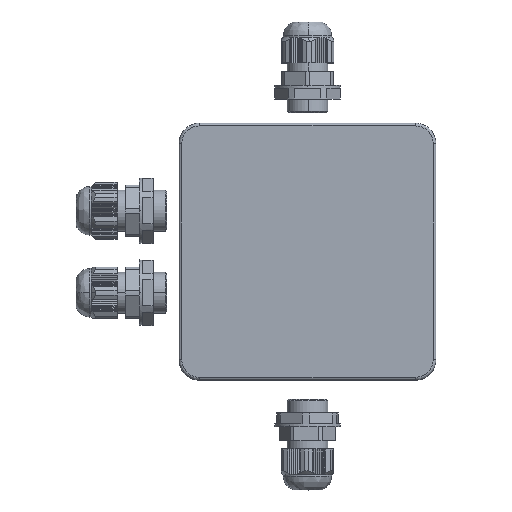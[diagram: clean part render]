
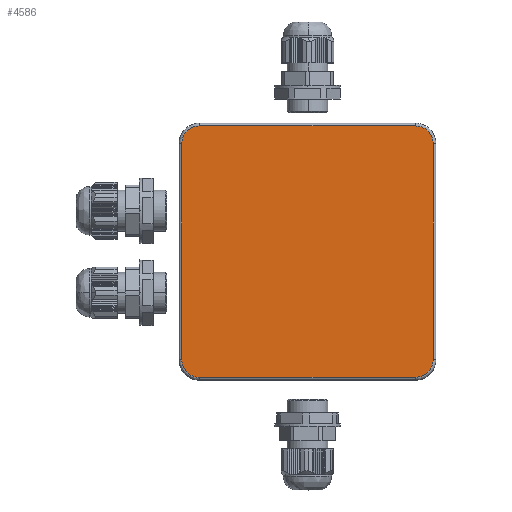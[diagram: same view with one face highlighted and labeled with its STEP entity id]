
A CAD part, top view. The second image highlights one B-rep face of the part: STEP entity #4586.
In plain terms, the highlighted planar face has unit normal (0, 0, 1).
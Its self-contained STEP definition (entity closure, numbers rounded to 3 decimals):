
#527 =( BOUNDED_CURVE ( )  B_SPLINE_CURVE ( 3, ( #1688, #5173, #7427, #9543 ),
 .UNSPECIFIED., .F., .F. ) 
 B_SPLINE_CURVE_WITH_KNOTS ( ( 4, 4 ),
 ( 0., 1. ),
 .UNSPECIFIED. ) 
 CURVE ( )  GEOMETRIC_REPRESENTATION_ITEM ( )  RATIONAL_B_SPLINE_CURVE ( ( 1., 0.805, 0.805, 1. ) ) 
 REPRESENTATION_ITEM ( '' )  );
#782 = LINE ( 'NONE', #10618, #7488 ) ;
#803 = VECTOR ( 'NONE', #870, 1000. ) ;
#870 = DIRECTION ( 'NONE',  ( 0., -1., 0. ) ) ;
#955 = ORIENTED_EDGE ( 'NONE', *, *, #6328, .F. ) ;
#1115 = ORIENTED_EDGE ( 'NONE', *, *, #8320, .F. ) ;
#1157 = VERTEX_POINT ( 'NONE', #5897 ) ;
#1190 = EDGE_CURVE ( 'NONE', #6258, #4669, #527, .T. ) ;
#1464 = EDGE_CURVE ( 'NONE', #2811, #1157, #782, .T. ) ;
#1467 = AXIS2_PLACEMENT_3D ( 'NONE', #6536, #8304, #3087 ) ;
#1672 = DIRECTION ( 'NONE',  ( 1., 0., 0. ) ) ;
#1688 = CARTESIAN_POINT ( 'NONE',  ( 39.5, 46., 15. ) ) ;
#1706 =( BOUNDED_CURVE ( )  B_SPLINE_CURVE ( 3, ( #4428, #9676, #2695, #10552 ),
 .UNSPECIFIED., .F., .F. ) 
 B_SPLINE_CURVE_WITH_KNOTS ( ( 4, 4 ),
 ( 0., 1. ),
 .UNSPECIFIED. ) 
 CURVE ( )  GEOMETRIC_REPRESENTATION_ITEM ( )  RATIONAL_B_SPLINE_CURVE ( ( 1., 0.805, 0.805, 1. ) ) 
 REPRESENTATION_ITEM ( '' )  );
#1882 = LINE ( 'NONE', #2371, #10929 ) ;
#2181 =( BOUNDED_CURVE ( )  B_SPLINE_CURVE ( 3, ( #4324, #3458, #5197, #11343 ),
 .UNSPECIFIED., .F., .F. ) 
 B_SPLINE_CURVE_WITH_KNOTS ( ( 4, 4 ),
 ( 0., 1. ),
 .UNSPECIFIED. ) 
 CURVE ( )  GEOMETRIC_REPRESENTATION_ITEM ( )  RATIONAL_B_SPLINE_CURVE ( ( 1., 0.805, 0.805, 1. ) ) 
 REPRESENTATION_ITEM ( '' )  );
#2371 = CARTESIAN_POINT ( 'NONE',  ( -39.5, -46., 15. ) ) ;
#2672 = FACE_OUTER_BOUND ( 'NONE', #10313, .T. ) ;
#2695 = CARTESIAN_POINT ( 'NONE',  ( 43.308, -46., 15. ) ) ;
#2811 = VERTEX_POINT ( 'NONE', #7261 ) ;
#2913 = CARTESIAN_POINT ( 'NONE',  ( -46., -43.308, 15. ) ) ;
#3030 = EDGE_CURVE ( 'NONE', #10125, #6258, #8699, .T. ) ;
#3087 = DIRECTION ( 'NONE',  ( 1., 0., 0. ) ) ;
#3202 = ORIENTED_EDGE ( 'NONE', *, *, #10578, .F. ) ;
#3458 = CARTESIAN_POINT ( 'NONE',  ( -46., 43.308, 15. ) ) ;
#4025 = CARTESIAN_POINT ( 'NONE',  ( 46., 39.5, 15. ) ) ;
#4068 = EDGE_CURVE ( 'NONE', #6037, #9741, #1706, .T. ) ;
#4324 = CARTESIAN_POINT ( 'NONE',  ( -46., 39.5, 15. ) ) ;
#4363 = CARTESIAN_POINT ( 'NONE',  ( -39.5, 46., 15. ) ) ;
#4428 = CARTESIAN_POINT ( 'NONE',  ( 46., -39.5, 15. ) ) ;
#4586 = ADVANCED_FACE ( 'N', ( #2672 ), #9591, .T. ) ;
#4587 = VECTOR ( 'NONE', #1672, 1000. ) ;
#4669 = VERTEX_POINT ( 'NONE', #4025 ) ;
#4776 = ORIENTED_EDGE ( 'NONE', *, *, #4068, .F. ) ;
#4999 = DIRECTION ( 'NONE',  ( -1., 0., 0. ) ) ;
#5062 = CARTESIAN_POINT ( 'NONE',  ( 46., -39.5, 15. ) ) ;
#5173 = CARTESIAN_POINT ( 'NONE',  ( 43.308, 46., 15. ) ) ;
#5197 = CARTESIAN_POINT ( 'NONE',  ( -43.308, 46., 15. ) ) ;
#5886 =( BOUNDED_CURVE ( )  B_SPLINE_CURVE ( 3, ( #7242, #8130, #2913, #9018 ),
 .UNSPECIFIED., .F., .F. ) 
 B_SPLINE_CURVE_WITH_KNOTS ( ( 4, 4 ),
 ( 0., 1. ),
 .UNSPECIFIED. ) 
 CURVE ( )  GEOMETRIC_REPRESENTATION_ITEM ( )  RATIONAL_B_SPLINE_CURVE ( ( 1., 0.805, 0.805, 1. ) ) 
 REPRESENTATION_ITEM ( '' )  );
#5897 = CARTESIAN_POINT ( 'NONE',  ( -46., 39.5, 15. ) ) ;
#6037 = VERTEX_POINT ( 'NONE', #5062 ) ;
#6109 = CARTESIAN_POINT ( 'NONE',  ( 46., -39.5, 15. ) ) ;
#6258 = VERTEX_POINT ( 'NONE', #7134 ) ;
#6328 = EDGE_CURVE ( 'NONE', #8818, #2811, #5886, .T. ) ;
#6534 = CARTESIAN_POINT ( 'NONE',  ( -39.5, -46., 15. ) ) ;
#6536 = CARTESIAN_POINT ( 'NONE',  ( -39.5, -39.5, 15. ) ) ;
#6936 = ORIENTED_EDGE ( 'NONE', *, *, #1464, .F. ) ;
#7134 = CARTESIAN_POINT ( 'NONE',  ( 39.5, 46., 15. ) ) ;
#7242 = CARTESIAN_POINT ( 'NONE',  ( -39.5, -46., 15. ) ) ;
#7261 = CARTESIAN_POINT ( 'NONE',  ( -46., -39.5, 15. ) ) ;
#7427 = CARTESIAN_POINT ( 'NONE',  ( 46., 43.308, 15. ) ) ;
#7488 = VECTOR ( 'NONE', #9928, 1000. ) ;
#7663 = ORIENTED_EDGE ( 'NONE', *, *, #7844, .F. ) ;
#7783 = LINE ( 'NONE', #6109, #803 ) ;
#7844 = EDGE_CURVE ( 'NONE', #1157, #10125, #2181, .T. ) ;
#8028 = ORIENTED_EDGE ( 'NONE', *, *, #1190, .F. ) ;
#8130 = CARTESIAN_POINT ( 'NONE',  ( -43.308, -46., 15. ) ) ;
#8212 = CARTESIAN_POINT ( 'NONE',  ( 39.5, -46., 15. ) ) ;
#8304 = DIRECTION ( 'NONE',  ( 0., 0., 1. ) ) ;
#8320 = EDGE_CURVE ( 'NONE', #4669, #6037, #7783, .T. ) ;
#8524 = ORIENTED_EDGE ( 'NONE', *, *, #3030, .F. ) ;
#8699 = LINE ( 'NONE', #11305, #4587 ) ;
#8818 = VERTEX_POINT ( 'NONE', #6534 ) ;
#9018 = CARTESIAN_POINT ( 'NONE',  ( -46., -39.5, 15. ) ) ;
#9543 = CARTESIAN_POINT ( 'NONE',  ( 46., 39.5, 15. ) ) ;
#9591 = PLANE ( 'NONE',  #1467 ) ;
#9676 = CARTESIAN_POINT ( 'NONE',  ( 46., -43.308, 15. ) ) ;
#9741 = VERTEX_POINT ( 'NONE', #8212 ) ;
#9928 = DIRECTION ( 'NONE',  ( 0., 1., 0. ) ) ;
#10125 = VERTEX_POINT ( 'NONE', #4363 ) ;
#10313 = EDGE_LOOP ( 'NONE', ( #8524, #7663, #6936, #955, #3202, #4776, #1115, #8028 ) ) ;
#10552 = CARTESIAN_POINT ( 'NONE',  ( 39.5, -46., 15. ) ) ;
#10578 = EDGE_CURVE ( 'NONE', #9741, #8818, #1882, .T. ) ;
#10618 = CARTESIAN_POINT ( 'NONE',  ( -46., -39.5, 15. ) ) ;
#10929 = VECTOR ( 'NONE', #4999, 1000. ) ;
#11305 = CARTESIAN_POINT ( 'NONE',  ( -39.5, 46., 15. ) ) ;
#11343 = CARTESIAN_POINT ( 'NONE',  ( -39.5, 46., 15. ) ) ;
